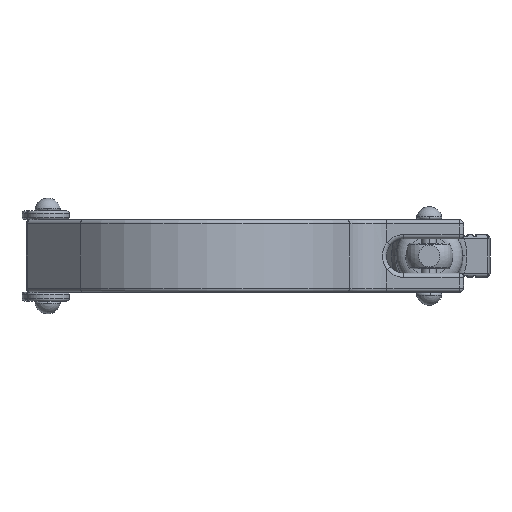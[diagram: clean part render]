
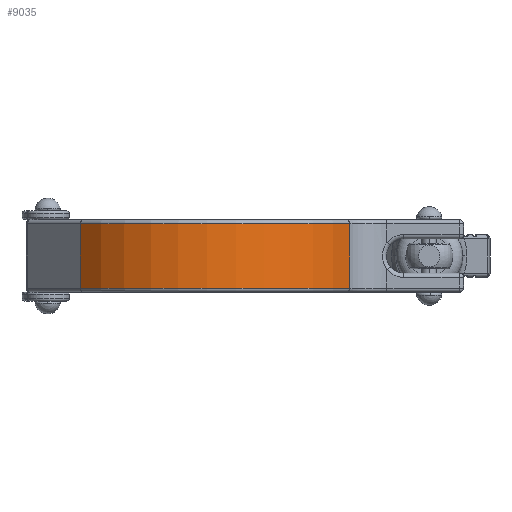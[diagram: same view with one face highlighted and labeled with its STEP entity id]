
A CAD part, front view. The second image highlights one B-rep face of the part: STEP entity #9035.
In plain terms, the highlighted cylindrical face has radius 38.5 mm (diameter 77 mm), a partial arc.
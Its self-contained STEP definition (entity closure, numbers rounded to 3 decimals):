
#548 = VERTEX_POINT ( 'NONE', #7930 ) ;
#1106 = CARTESIAN_POINT ( 'NONE',  ( -29.384, 17.624, 7.5 ) ) ;
#1407 = AXIS2_PLACEMENT_3D ( 'NONE', #15787, #14533, #9421 ) ;
#1495 = CARTESIAN_POINT ( 'NONE',  ( 0., 42.5, 8.5 ) ) ;
#3092 = VERTEX_POINT ( 'NONE', #12936 ) ;
#3878 = DIRECTION ( 'NONE',  ( 1., 0., 0. ) ) ;
#3909 = EDGE_CURVE ( 'NONE', #548, #3092, #5004, .T. ) ;
#3914 = DIRECTION ( 'NONE',  ( 0., 0., -1. ) ) ;
#4678 = FACE_OUTER_BOUND ( 'NONE', #6894, .T. ) ;
#4771 = CIRCLE ( 'NONE', #1407, 38.5 ) ;
#4874 = CARTESIAN_POINT ( 'NONE',  ( -29.384, 17.624, -7.5 ) ) ;
#5004 = LINE ( 'NONE', #15367, #7194 ) ;
#5166 = EDGE_CURVE ( 'NONE', #548, #11922, #4771, .T. ) ;
#5572 = DIRECTION ( 'NONE',  ( 0., 0., -1. ) ) ;
#6894 = EDGE_LOOP ( 'NONE', ( #10820, #9697, #9779, #9083 ) ) ;
#7053 = LINE ( 'NONE', #16351, #15484 ) ;
#7194 = VECTOR ( 'NONE', #15698, 1000. ) ;
#7491 = CYLINDRICAL_SURFACE ( 'NONE', #8711, 38.5 ) ;
#7930 = CARTESIAN_POINT ( 'NONE',  ( 33.456, 23.448, 7.5 ) ) ;
#8618 = AXIS2_PLACEMENT_3D ( 'NONE', #13914, #16601, #3878 ) ;
#8711 = AXIS2_PLACEMENT_3D ( 'NONE', #1495, #5572, #15661 ) ;
#9035 = ADVANCED_FACE ( 'NONE', ( #4678 ), #7491, .T. ) ;
#9083 = ORIENTED_EDGE ( 'NONE', *, *, #14587, .T. ) ;
#9421 = DIRECTION ( 'NONE',  ( 1., 0., 0. ) ) ;
#9697 = ORIENTED_EDGE ( 'NONE', *, *, #5166, .T. ) ;
#9779 = ORIENTED_EDGE ( 'NONE', *, *, #11494, .T. ) ;
#10820 = ORIENTED_EDGE ( 'NONE', *, *, #3909, .F. ) ;
#11494 = EDGE_CURVE ( 'NONE', #11922, #12933, #7053, .T. ) ;
#11922 = VERTEX_POINT ( 'NONE', #1106 ) ;
#12933 = VERTEX_POINT ( 'NONE', #4874 ) ;
#12936 = CARTESIAN_POINT ( 'NONE',  ( 33.456, 23.448, -7.5 ) ) ;
#13914 = CARTESIAN_POINT ( 'NONE',  ( 0., 42.5, -7.5 ) ) ;
#14533 = DIRECTION ( 'NONE',  ( 0., 0., -1. ) ) ;
#14587 = EDGE_CURVE ( 'NONE', #12933, #3092, #16630, .T. ) ;
#15367 = CARTESIAN_POINT ( 'NONE',  ( 33.456, 23.448, 8.5 ) ) ;
#15484 = VECTOR ( 'NONE', #3914, 1000. ) ;
#15661 = DIRECTION ( 'NONE',  ( 1., 0., 0. ) ) ;
#15698 = DIRECTION ( 'NONE',  ( 0., 0., -1. ) ) ;
#15787 = CARTESIAN_POINT ( 'NONE',  ( 0., 42.5, 7.5 ) ) ;
#16351 = CARTESIAN_POINT ( 'NONE',  ( -29.384, 17.624, 8.5 ) ) ;
#16601 = DIRECTION ( 'NONE',  ( 0., 0., 1. ) ) ;
#16630 = CIRCLE ( 'NONE', #8618, 38.5 ) ;
